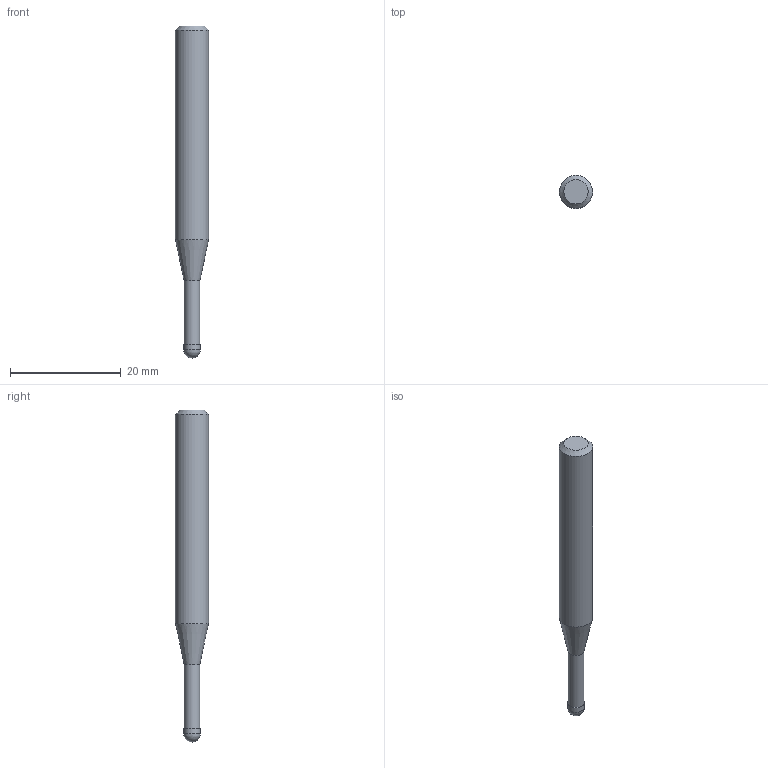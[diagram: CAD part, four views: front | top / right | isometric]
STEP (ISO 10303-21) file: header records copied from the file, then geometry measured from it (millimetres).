
FILE_DESCRIPTION((''),'2;1');
FILE_NAME('C:\Users\nsx150\AppData\Local\Temp\Mastercam 2021\3SYKECWX22\TEMP.step','2021-04-22T10:04:54',(''),(''),'STEP Write','Mastercam 2021 ... CNC Software, Inc.','');
FILE_SCHEMA(('AUTOMOTIVE_DESIGN'));
Length unit declared in the file: millimetre
Products named in the file (1): None
Bounding box: 6 x 6 x 60 mm (x, y, z)
Volume: 1291.9 mm3; surface area: 991.3 mm2
Topology: 2 solids, 2 shells, 9 faces, 14 edges, 8 vertices
Faces by surface type: plane 3, cylinder 3, cone 2, sphere 1
Full cylindrical faces by diameter (mm): 2.85 x1, 3 x1, 6 x1
Entity records: 211 total; most frequent: DIRECTION 36, CARTESIAN_POINT 25, AXIS2_PLACEMENT_3D 18, ORIENTED_EDGE 14, EDGE_LOOP 14, STYLED_ITEM 12, ADVANCED_FACE 9, FACE_BOUND 8
